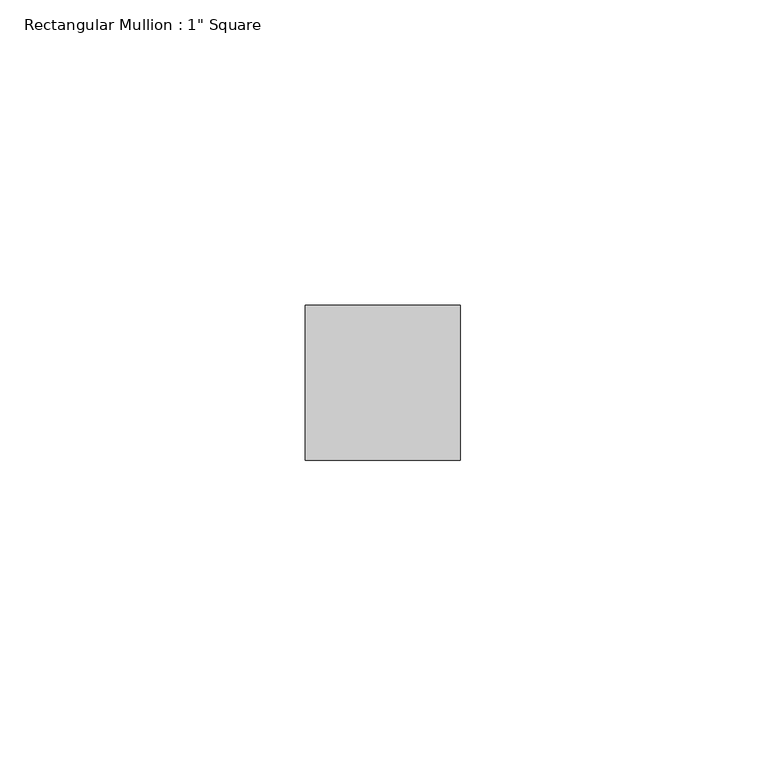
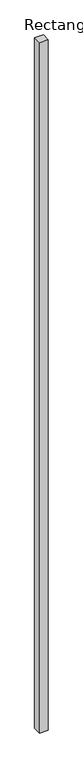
"""IFC4 building model written with IfcOpenShell, lengths in millimetres: member geometry."""

from ifc_helpers import new_model, si_unit, frame, origin, place, context, project, spatial, polyline, outline, extrude, source, transform, mapped, element, save


def member_447cb305(model_context):
    return source(origin(), model_context, "Body", "SweptSolid", [
        extrude(outline(polyline([(0.0, 12.7), (0.0, -12.7), (-25.4, -12.7), (-25.4, 12.7), (0.0, 12.7)])), frame((0.0, 0.0, -2156.8560111), z_axis=(0.0, 0.0, 1.0), x_axis=(1.0, 0.0, 0.0)), (0.0, 0.0, 1.0), 2156.8560111),
    ])


if __name__ == "__main__":
    model = new_model("IFC4")
    model_context = context("Model", 3, world=origin())
    ifc_project = project(units=[si_unit("LENGTHUNIT", "METRE", prefix="MILLI")], contexts=[model_context])
    site = spatial("IfcSite", under=ifc_project)
    building = spatial("IfcBuilding", under=site)
    placement = place(None, origin())
    member_shape = member_447cb305(model_context)
    element("IfcMember", 1, ObjectType="Rectangular Mullion : 1\" Square", at=placement, inside=building, context=model_context, shape_type="MappedRepresentation", body=[
        mapped(member_shape, transform((0.0, 0.0, 0.0), x_axis=(1.0, 0.0, 0.0), y_axis=(0.0, 1.0, 0.0), z_axis=(0.0, 0.0, 1.0))),
    ])
    save(model, "model.ifc")
